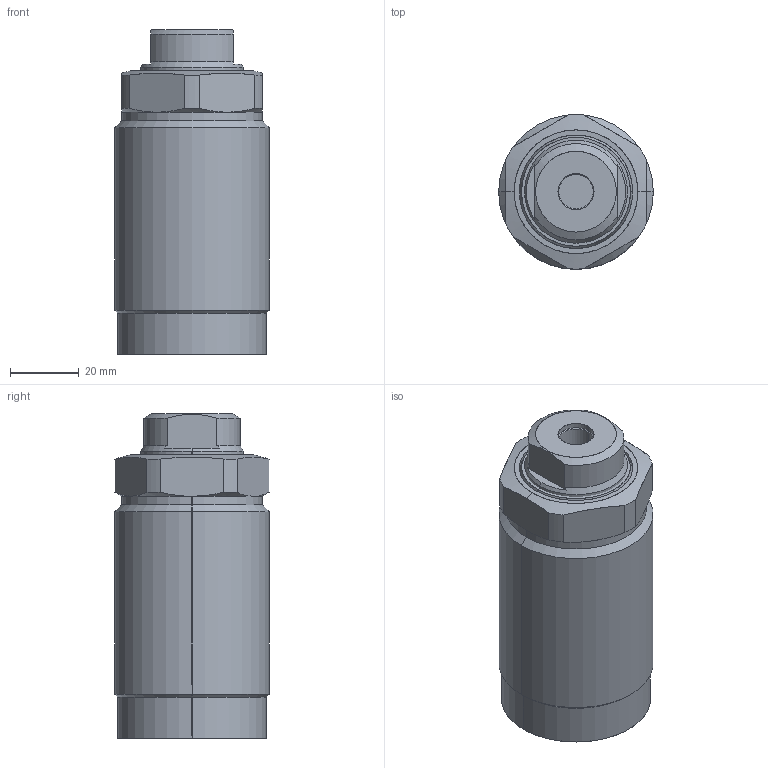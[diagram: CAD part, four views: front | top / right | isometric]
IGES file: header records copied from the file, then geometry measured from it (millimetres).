
Start section: SolidWorks IGES file using analytic representation for surfaces
Global section: file name: D:\abhilash\nijil\cylinder\Clasys1\dp converted\06\pt\0603\0102-0603.IGS; native system: SolidWorks 2010; preprocessor: SolidWorks 2010; author: nidheesh; date: 130730.113332; units: millimetre
Bounding box: 45 x 45 x 94.5 mm (x, y, z)
Surface area: 19837.7 mm2 (no closed solid volume)
Topology: 0 solids, 0 shells, 70 faces, 1200 edges, 1200 vertices
Faces by surface type: revolution 46, bspline 24
